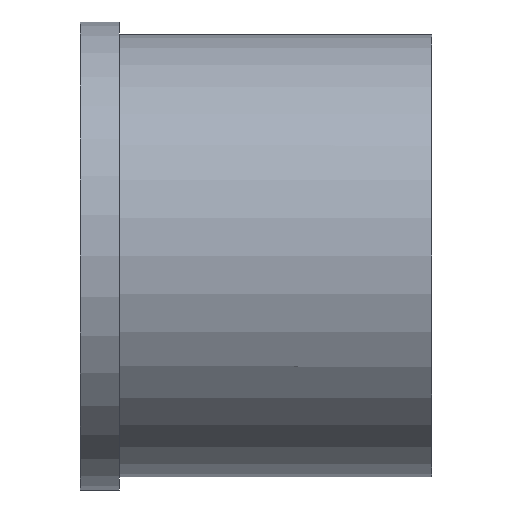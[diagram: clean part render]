
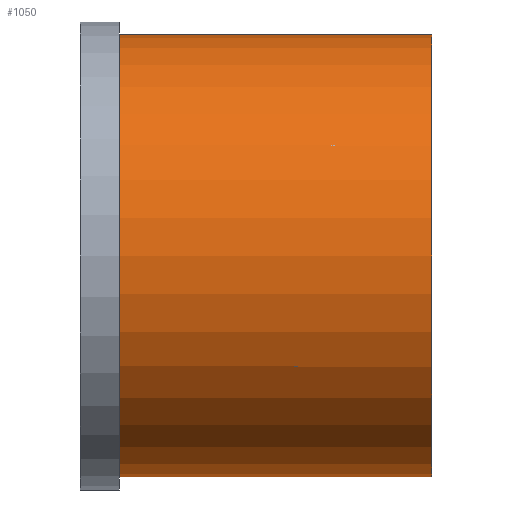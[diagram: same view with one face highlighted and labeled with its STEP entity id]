
A CAD part, front view. The second image highlights one B-rep face of the part: STEP entity #1050.
In plain terms, the highlighted cylindrical face has radius 17 mm (diameter 34 mm), a partial arc.
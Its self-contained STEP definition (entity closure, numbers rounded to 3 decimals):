
#210=CARTESIAN_POINT('',(38.13,56.87,3.));
#220=DIRECTION('',(0.,0.,-1.));
#230=DIRECTION('',(0.,-1.,0.));
#240=AXIS2_PLACEMENT_3D('',#210,#220,#230);
#250=CIRCLE('',#240,17.);
#260=CARTESIAN_POINT('',(38.13,39.87,3.));
#270=VERTEX_POINT('639353-1663231019-14cb19c6d37b-0 10879',#260);
#280=CARTESIAN_POINT('',(21.13,56.87,3.));
#290=VERTEX_POINT('',#280);
#300=EDGE_CURVE('639353-1663231019-14cb19c6d37b-0 10877',#270,#290,#250,
.T.);
#320=CARTESIAN_POINT('',(55.13,56.87,3.));
#330=VERTEX_POINT('',#320);
#360=EDGE_CURVE('639353-1663231019-14cb19c6d37b-0 10877',#330,#270,#250,
.T.);
#730=CARTESIAN_POINT('',(38.13,56.87,0.));
#740=DIRECTION('',(0.,0.,1.));
#750=DIRECTION('',(1.,0.,0.));
#760=AXIS2_PLACEMENT_3D('',#730,#740,#750);
#770=CYLINDRICAL_SURFACE('',#760,17.);
#780=CARTESIAN_POINT('',(55.13,56.87,0.));
#790=DIRECTION('',(0.,0.,1.));
#800=VECTOR('',#790,1.);
#810=LINE('',#780,#800);
#820=CARTESIAN_POINT('',(55.13,56.87,-21.));
#830=VERTEX_POINT('639353-1663231019-14cb19c6d37b-0 10899',#820);
#840=EDGE_CURVE('',#830,#330,#810,.T.);
#850=ORIENTED_EDGE('',*,*,#840,.T.);
#860=CARTESIAN_POINT('',(38.13,56.87,-21.));
#870=DIRECTION('',(0.,0.,1.));
#880=DIRECTION('',(1.,0.,0.));
#890=AXIS2_PLACEMENT_3D('',#860,#870,#880);
#900=CIRCLE('',#890,17.);
#910=CARTESIAN_POINT('',(21.13,56.87,-21.));
#920=VERTEX_POINT('',#910);
#930=EDGE_CURVE('639353-1663231019-14cb19c6d37b-0 10894',#920,#830,#900,
.T.);
#940=ORIENTED_EDGE('',*,*,#930,.T.);
#950=CARTESIAN_POINT('',(21.13,56.87,0.));
#960=DIRECTION('',(0.,0.,1.));
#970=VECTOR('',#960,1.);
#980=LINE('',#950,#970);
#990=EDGE_CURVE('',#920,#290,#980,.T.);
#1000=ORIENTED_EDGE('',*,*,#990,.F.);
#1010=ORIENTED_EDGE('',*,*,#300,.T.);
#1020=ORIENTED_EDGE('',*,*,#360,.T.);
#1030=EDGE_LOOP('',(#1020,#1010,#1000,#940,#850));
#1040=FACE_OUTER_BOUND('',#1030,.T.);
#1050=ADVANCED_FACE('639353-1663231019-14cb19c6d37b-0 10886',(#1040),
#770,.T.);
